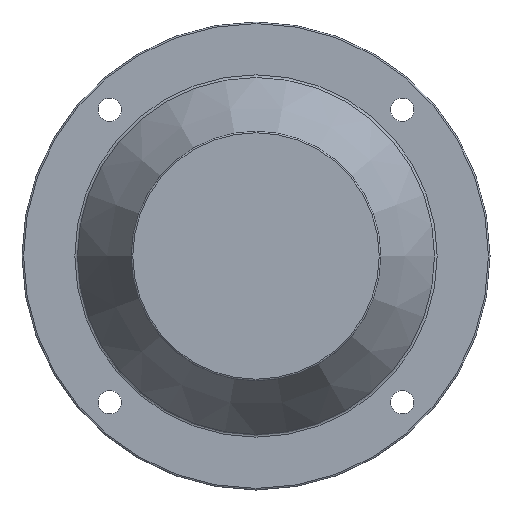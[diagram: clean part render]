
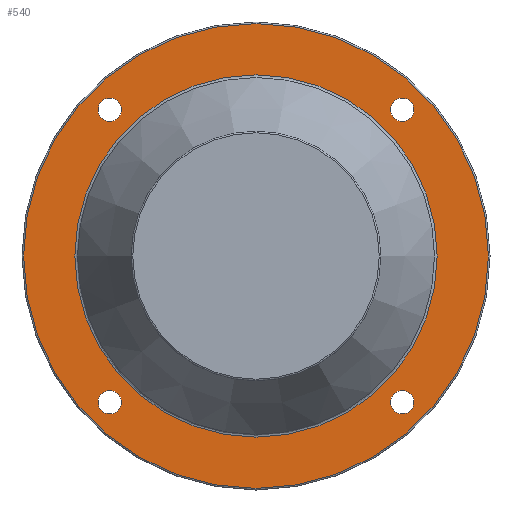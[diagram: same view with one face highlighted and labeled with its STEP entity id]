
A CAD part, left-side view. The second image highlights one B-rep face of the part: STEP entity #540.
In plain terms, the highlighted planar face has unit normal (-1, 0, 0).
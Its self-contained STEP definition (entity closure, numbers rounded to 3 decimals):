
#254=CARTESIAN_POINT('',(111.,101.192,-93.692));
#255=VERTEX_POINT('',#254);
#256=CARTESIAN_POINT('',(111.,93.692,-93.692));
#257=DIRECTION('',(1.0,0.0,0.0));
#258=DIRECTION('',(0.0,1.0,0.0));
#259=AXIS2_PLACEMENT_3D('',#256,#257,#258);
#260=CIRCLE('',#259,7.5);
#261=EDGE_CURVE('',#255,#255,#260,.T.);
#303=CARTESIAN_POINT('',(111.,-86.192,-93.692));
#304=VERTEX_POINT('',#303);
#305=CARTESIAN_POINT('',(111.,-93.692,-93.692));
#306=DIRECTION('',(1.0,0.0,0.0));
#307=DIRECTION('',(0.0,1.0,0.0));
#308=AXIS2_PLACEMENT_3D('',#305,#306,#307);
#309=CIRCLE('',#308,7.5);
#310=EDGE_CURVE('',#304,#304,#309,.T.);
#352=CARTESIAN_POINT('',(111.,-86.192,93.692));
#353=VERTEX_POINT('',#352);
#354=CARTESIAN_POINT('',(111.,-93.692,93.692));
#355=DIRECTION('',(1.0,0.0,0.0));
#356=DIRECTION('',(0.0,1.0,0.0));
#357=AXIS2_PLACEMENT_3D('',#354,#355,#356);
#358=CIRCLE('',#357,7.5);
#359=EDGE_CURVE('',#353,#353,#358,.T.);
#401=CARTESIAN_POINT('',(111.,101.192,93.692));
#402=VERTEX_POINT('',#401);
#403=CARTESIAN_POINT('',(111.,93.692,93.692));
#404=DIRECTION('',(1.0,0.0,0.0));
#405=DIRECTION('',(0.0,1.0,0.0));
#406=AXIS2_PLACEMENT_3D('',#403,#404,#405);
#407=CIRCLE('',#406,7.5);
#408=EDGE_CURVE('',#402,#402,#407,.T.);
#477=CARTESIAN_POINT('',(111.,116.136,0.));
#478=VERTEX_POINT('',#477);
#479=CARTESIAN_POINT('',(111.,0.0,0.0));
#480=DIRECTION('',(-1.0,0.0,0.0));
#481=DIRECTION('',(0.0,-1.0,0.0));
#482=AXIS2_PLACEMENT_3D('',#479,#480,#481);
#483=CIRCLE('',#482,116.136);
#484=EDGE_CURVE('',#478,#478,#483,.T.);
#509=CARTESIAN_POINT('',(111.,132.5,0.));
#510=DIRECTION('',(-1.0,0.0,0.0));
#511=DIRECTION('',(0.0,0.0,1.0));
#512=AXIS2_PLACEMENT_3D('',#509,#510,#511);
#513=PLANE('',#512);
#514=CARTESIAN_POINT('',(111.,149.0,0.0));
#515=VERTEX_POINT('',#514);
#516=CARTESIAN_POINT('',(111.,0.0,0.0));
#517=DIRECTION('',(1.0,0.0,0.0));
#518=DIRECTION('',(0.0,-1.0,0.0));
#519=AXIS2_PLACEMENT_3D('',#516,#517,#518);
#520=CIRCLE('',#519,149.0);
#521=EDGE_CURVE('',#515,#515,#520,.T.);
#522=ORIENTED_EDGE('',*,*,#521,.F.);
#523=EDGE_LOOP('',(#522));
#524=FACE_OUTER_BOUND('',#523,.T.);
#525=ORIENTED_EDGE('',*,*,#261,.T.);
#526=EDGE_LOOP('',(#525));
#527=FACE_BOUND('',#526,.T.);
#528=ORIENTED_EDGE('',*,*,#310,.T.);
#529=EDGE_LOOP('',(#528));
#530=FACE_BOUND('',#529,.T.);
#531=ORIENTED_EDGE('',*,*,#359,.T.);
#532=EDGE_LOOP('',(#531));
#533=FACE_BOUND('',#532,.T.);
#534=ORIENTED_EDGE('',*,*,#408,.T.);
#535=EDGE_LOOP('',(#534));
#536=FACE_BOUND('',#535,.T.);
#537=ORIENTED_EDGE('',*,*,#484,.F.);
#538=EDGE_LOOP('',(#537));
#539=FACE_BOUND('',#538,.T.);
#540=ADVANCED_FACE('',(#524,#527,#530,#533,#536,#539),#513,.T.);
